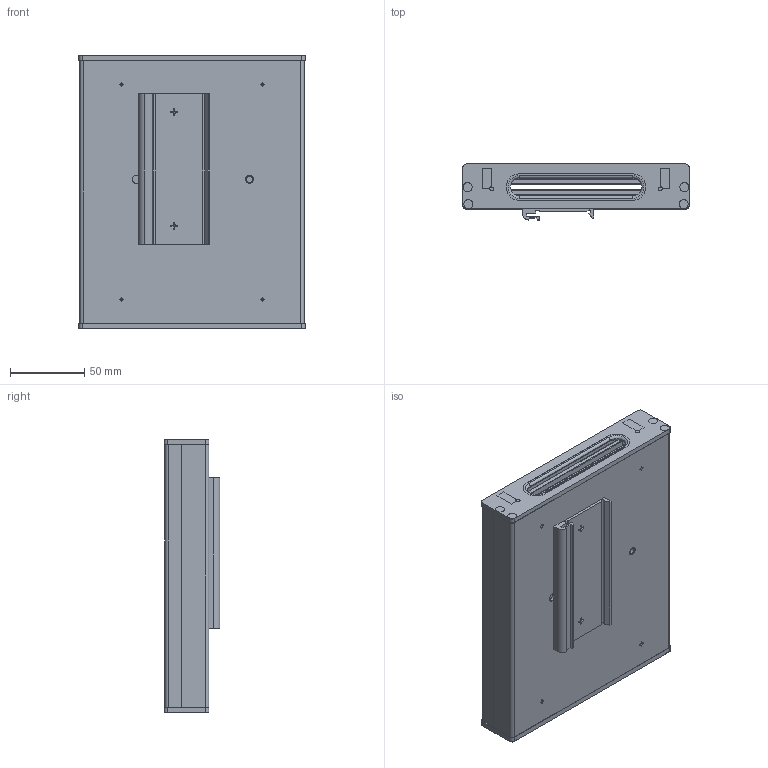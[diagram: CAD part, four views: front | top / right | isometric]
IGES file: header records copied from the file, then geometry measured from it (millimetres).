
Start section:  PTC IGES file: cd_scb-264x.igs
Global section: file name: cd_scb-264x.igs; native system: Pro/ENGINEER by Parametric Technology Corporation; preprocessor: 2010230; author: jjorden; organization: Unknown; date: 20110815.164507; units: inch
Bounding box: 152.4 x 37.54 x 183.9 mm (x, y, z)
Surface area: 169435.5 mm2 (no closed solid volume)
Topology: 0 solids, 0 shells, 551 faces, 2630 edges, 2510 vertices
Faces by surface type: bspline 307, revolution 243, extrusion 1
